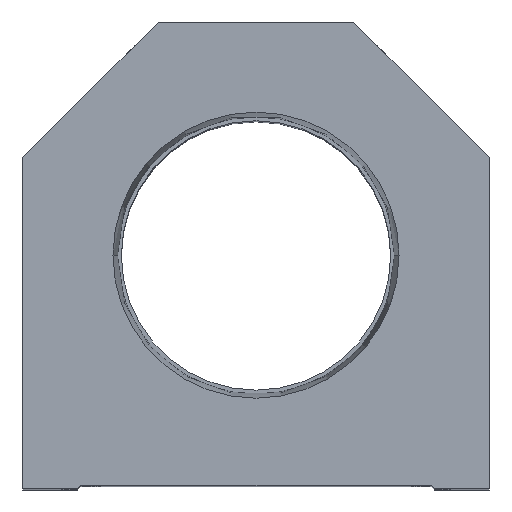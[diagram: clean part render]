
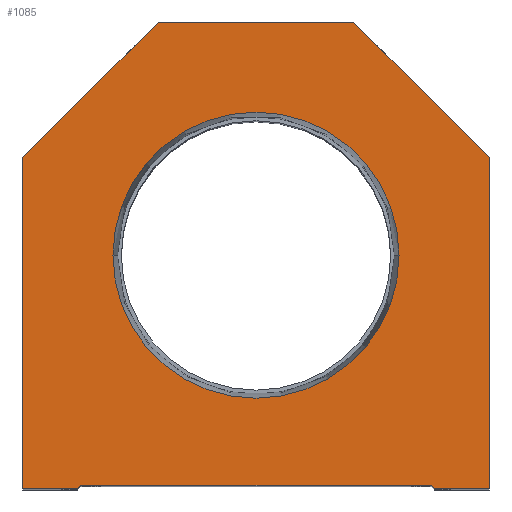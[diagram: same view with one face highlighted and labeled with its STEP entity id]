
A CAD part, top view. The second image highlights one B-rep face of the part: STEP entity #1085.
In plain terms, the highlighted planar face has unit normal (0, 0, 1).
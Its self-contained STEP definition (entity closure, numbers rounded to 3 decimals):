
#206 = EDGE_CURVE ( 'NONE', #7226, #4471, #3511, .T. ) ;
#362 = DIRECTION ( 'NONE',  ( 0., 0., 1. ) ) ;
#699 = CARTESIAN_POINT ( 'NONE',  ( 16., 76.2, 0. ) ) ;
#996 = VERTEX_POINT ( 'NONE', #10914 ) ;
#1005 = CARTESIAN_POINT ( 'NONE',  ( -38.1, 0., 0. ) ) ;
#1085 = ADVANCED_FACE ( 'NONE', ( #8396, #16702 ), #15080, .T. ) ;
#1404 = CARTESIAN_POINT ( 'NONE',  ( 38.1, 0., 0. ) ) ;
#1567 = VERTEX_POINT ( 'NONE', #7117 ) ;
#1618 = VECTOR ( 'NONE', #12099, 1000. ) ;
#1633 = VERTEX_POINT ( 'NONE', #7293 ) ;
#1802 = CARTESIAN_POINT ( 'NONE',  ( -29.1, 0., 0. ) ) ;
#1979 = CARTESIAN_POINT ( 'NONE',  ( -14.55, 14.55, 0. ) ) ;
#2017 = CARTESIAN_POINT ( 'NONE',  ( -38.1, 54.1, 0. ) ) ;
#2190 = ORIENTED_EDGE ( 'NONE', *, *, #17514, .T. ) ;
#2339 = ORIENTED_EDGE ( 'NONE', *, *, #9955, .T. ) ;
#2548 = EDGE_CURVE ( 'NONE', #1633, #996, #14198, .T. ) ;
#2619 = ORIENTED_EDGE ( 'NONE', *, *, #206, .T. ) ;
#2715 = DIRECTION ( 'NONE',  ( 0., 0., 1. ) ) ;
#2894 = CARTESIAN_POINT ( 'NONE',  ( 38.1, 54.1, 0. ) ) ;
#2974 = LINE ( 'NONE', #8478, #16028 ) ;
#3322 = LINE ( 'NONE', #2017, #14210 ) ;
#3511 = LINE ( 'NONE', #10544, #7585 ) ;
#3578 = ORIENTED_EDGE ( 'NONE', *, *, #13441, .T. ) ;
#3881 = DIRECTION ( 'NONE',  ( 1., 0., 0. ) ) ;
#4111 = VECTOR ( 'NONE', #5906, 1000. ) ;
#4112 = EDGE_CURVE ( 'NONE', #14890, #4132, #5753, .T. ) ;
#4132 = VERTEX_POINT ( 'NONE', #8521 ) ;
#4152 = CARTESIAN_POINT ( 'NONE',  ( 28.6, 0.5, 0. ) ) ;
#4380 = LINE ( 'NONE', #17915, #13607 ) ;
#4471 = VERTEX_POINT ( 'NONE', #4152 ) ;
#4685 = DIRECTION ( 'NONE',  ( 1., 0., 0. ) ) ;
#4886 = EDGE_LOOP ( 'NONE', ( #7467, #8388 ) ) ;
#5102 = LINE ( 'NONE', #16960, #6993 ) ;
#5422 = CARTESIAN_POINT ( 'NONE',  ( 0., 38.1, 0. ) ) ;
#5636 = EDGE_CURVE ( 'NONE', #5671, #7226, #15646, .T. ) ;
#5671 = VERTEX_POINT ( 'NONE', #1802 ) ;
#5753 = CIRCLE ( 'NONE', #8923, 23.374 ) ;
#5852 = DIRECTION ( 'NONE',  ( -0.707, -0.707, 0. ) ) ;
#5906 = DIRECTION ( 'NONE',  ( 0., 1., 0. ) ) ;
#6008 = DIRECTION ( 'NONE',  ( 0.707, 0.707, 0. ) ) ;
#6290 = VERTEX_POINT ( 'NONE', #1404 ) ;
#6366 = VECTOR ( 'NONE', #16698, 1000. ) ;
#6620 = ORIENTED_EDGE ( 'NONE', *, *, #8078, .T. ) ;
#6993 = VECTOR ( 'NONE', #4685, 1000. ) ;
#7117 = CARTESIAN_POINT ( 'NONE',  ( -16., 76.2, 0. ) ) ;
#7226 = VERTEX_POINT ( 'NONE', #14511 ) ;
#7293 = CARTESIAN_POINT ( 'NONE',  ( 38.1, 54.1, 0. ) ) ;
#7383 = VERTEX_POINT ( 'NONE', #14596 ) ;
#7450 = EDGE_CURVE ( 'NONE', #4471, #7383, #10859, .T. ) ;
#7467 = ORIENTED_EDGE ( 'NONE', *, *, #11445, .F. ) ;
#7585 = VECTOR ( 'NONE', #14538, 1000. ) ;
#7641 = ORIENTED_EDGE ( 'NONE', *, *, #2548, .T. ) ;
#7779 = VERTEX_POINT ( 'NONE', #1005 ) ;
#8078 = EDGE_CURVE ( 'NONE', #6290, #1633, #9767, .T. ) ;
#8085 = DIRECTION ( 'NONE',  ( 0., -1., 0. ) ) ;
#8116 = DIRECTION ( 'NONE',  ( 0., 0., 1. ) ) ;
#8388 = ORIENTED_EDGE ( 'NONE', *, *, #4112, .F. ) ;
#8396 = FACE_BOUND ( 'NONE', #4886, .T. ) ;
#8409 = CARTESIAN_POINT ( 'NONE',  ( 38.1, 0., 0. ) ) ;
#8478 = CARTESIAN_POINT ( 'NONE',  ( -28.6, 0., 0. ) ) ;
#8521 = CARTESIAN_POINT ( 'NONE',  ( 23.374, 38.1, 0. ) ) ;
#8923 = AXIS2_PLACEMENT_3D ( 'NONE', #16823, #362, #10480 ) ;
#9103 = ORIENTED_EDGE ( 'NONE', *, *, #5636, .T. ) ;
#9723 = EDGE_CURVE ( 'NONE', #1567, #13906, #3322, .T. ) ;
#9767 = LINE ( 'NONE', #8409, #4111 ) ;
#9955 = EDGE_CURVE ( 'NONE', #13906, #7779, #4380, .T. ) ;
#10134 = EDGE_CURVE ( 'NONE', #7383, #6290, #5102, .T. ) ;
#10480 = DIRECTION ( 'NONE',  ( 1., 0., 0. ) ) ;
#10544 = CARTESIAN_POINT ( 'NONE',  ( -28.6, 0.5, 0. ) ) ;
#10859 = LINE ( 'NONE', #11025, #17087 ) ;
#10914 = CARTESIAN_POINT ( 'NONE',  ( 16., 76.2, 0. ) ) ;
#11025 = CARTESIAN_POINT ( 'NONE',  ( 14.55, 14.55, 0. ) ) ;
#11445 = EDGE_CURVE ( 'NONE', #4132, #14890, #13957, .T. ) ;
#11632 = AXIS2_PLACEMENT_3D ( 'NONE', #5422, #8116, #3881 ) ;
#11831 = LINE ( 'NONE', #699, #1618 ) ;
#12099 = DIRECTION ( 'NONE',  ( -1., 0., 0. ) ) ;
#12436 = DIRECTION ( 'NONE',  ( 1., 0., 0. ) ) ;
#12553 = CARTESIAN_POINT ( 'NONE',  ( -38.1, 54.1, 0. ) ) ;
#12862 = CARTESIAN_POINT ( 'NONE',  ( -23.374, 38.1, 0. ) ) ;
#13033 = ORIENTED_EDGE ( 'NONE', *, *, #7450, .T. ) ;
#13441 = EDGE_CURVE ( 'NONE', #7779, #5671, #2974, .T. ) ;
#13607 = VECTOR ( 'NONE', #8085, 1000. ) ;
#13749 = DIRECTION ( 'NONE',  ( 1., 0., 0. ) ) ;
#13891 = ORIENTED_EDGE ( 'NONE', *, *, #10134, .T. ) ;
#13906 = VERTEX_POINT ( 'NONE', #12553 ) ;
#13957 = CIRCLE ( 'NONE', #11632, 23.374 ) ;
#14198 = LINE ( 'NONE', #2894, #6366 ) ;
#14210 = VECTOR ( 'NONE', #5852, 1000. ) ;
#14511 = CARTESIAN_POINT ( 'NONE',  ( -28.6, 0.5, 0. ) ) ;
#14538 = DIRECTION ( 'NONE',  ( 1., 0., 0. ) ) ;
#14596 = CARTESIAN_POINT ( 'NONE',  ( 29.1, 0., 0. ) ) ;
#14624 = EDGE_LOOP ( 'NONE', ( #3578, #9103, #2619, #13033, #13891, #6620, #7641, #2190, #14816, #2339 ) ) ;
#14816 = ORIENTED_EDGE ( 'NONE', *, *, #9723, .T. ) ;
#14890 = VERTEX_POINT ( 'NONE', #12862 ) ;
#15080 = PLANE ( 'NONE',  #15092 ) ;
#15092 = AXIS2_PLACEMENT_3D ( 'NONE', #15360, #2715, #13749 ) ;
#15360 = CARTESIAN_POINT ( 'NONE',  ( 0., 0., 0. ) ) ;
#15646 = LINE ( 'NONE', #1979, #16173 ) ;
#16028 = VECTOR ( 'NONE', #12436, 1000. ) ;
#16173 = VECTOR ( 'NONE', #6008, 1000. ) ;
#16561 = DIRECTION ( 'NONE',  ( 0.707, -0.707, 0. ) ) ;
#16698 = DIRECTION ( 'NONE',  ( -0.707, 0.707, 0. ) ) ;
#16702 = FACE_OUTER_BOUND ( 'NONE', #14624, .T. ) ;
#16823 = CARTESIAN_POINT ( 'NONE',  ( 0., 38.1, 0. ) ) ;
#16960 = CARTESIAN_POINT ( 'NONE',  ( 28.6, 0., 0. ) ) ;
#17087 = VECTOR ( 'NONE', #16561, 1000. ) ;
#17514 = EDGE_CURVE ( 'NONE', #996, #1567, #11831, .T. ) ;
#17915 = CARTESIAN_POINT ( 'NONE',  ( -38.1, 0., 0. ) ) ;
